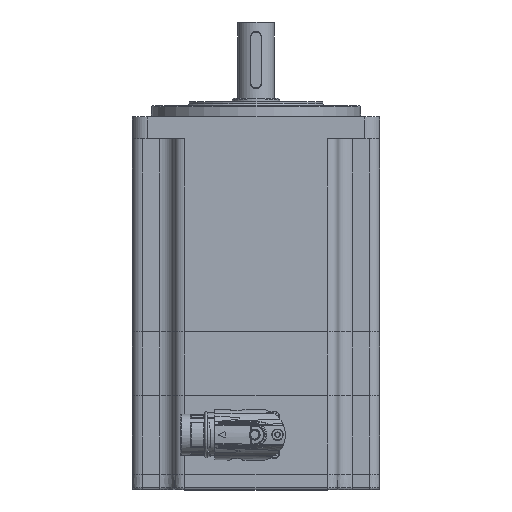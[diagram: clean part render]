
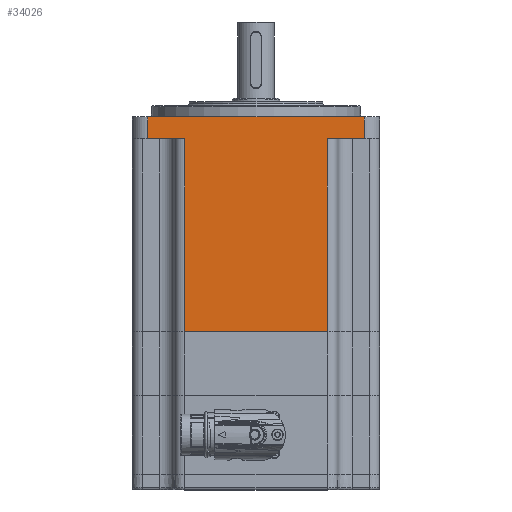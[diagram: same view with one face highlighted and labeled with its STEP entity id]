
A CAD part, top view. The second image highlights one B-rep face of the part: STEP entity #34026.
In plain terms, the highlighted planar face has unit normal (0, 0, 1).
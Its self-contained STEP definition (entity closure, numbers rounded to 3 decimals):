
#12874=LINE('',#56282,#14508);
#12924=LINE('',#57263,#14558);
#12929=LINE('',#57290,#14563);
#12948=LINE('',#57366,#14582);
#12949=LINE('',#57367,#14583);
#12950=LINE('',#57369,#14584);
#12951=LINE('',#57371,#14585);
#12952=LINE('',#57372,#14586);
#14508=VECTOR('',#42154,1000.);
#14558=VECTOR('',#42628,1000.);
#14563=VECTOR('',#42651,1000.);
#14582=VECTOR('',#42730,1000.);
#14583=VECTOR('',#42731,1000.);
#14584=VECTOR('',#42732,1000.);
#14585=VECTOR('',#42733,1000.);
#14586=VECTOR('',#42734,1000.);
#21110=ORIENTED_EDGE('',*,*,#24305,.F.);
#21111=ORIENTED_EDGE('',*,*,#24605,.T.);
#21112=ORIENTED_EDGE('',*,*,#24569,.F.);
#21113=ORIENTED_EDGE('',*,*,#24606,.T.);
#21114=ORIENTED_EDGE('',*,*,#24607,.F.);
#21115=ORIENTED_EDGE('',*,*,#24608,.T.);
#21116=ORIENTED_EDGE('',*,*,#24557,.F.);
#21117=ORIENTED_EDGE('',*,*,#24609,.T.);
#24305=EDGE_CURVE('',#26755,#26756,#12874,.T.);
#24557=EDGE_CURVE('',#26917,#26918,#12924,.T.);
#24569=EDGE_CURVE('',#26929,#26930,#12929,.T.);
#24605=EDGE_CURVE('',#26755,#26930,#12948,.T.);
#24606=EDGE_CURVE('',#26929,#26957,#12949,.T.);
#24607=EDGE_CURVE('',#26958,#26957,#12950,.T.);
#24608=EDGE_CURVE('',#26958,#26918,#12951,.F.);
#24609=EDGE_CURVE('',#26917,#26756,#12952,.T.);
#26755=VERTEX_POINT('',#56281);
#26756=VERTEX_POINT('',#56283);
#26917=VERTEX_POINT('',#57264);
#26918=VERTEX_POINT('',#57265);
#26929=VERTEX_POINT('',#57289);
#26930=VERTEX_POINT('',#57291);
#26957=VERTEX_POINT('',#57368);
#26958=VERTEX_POINT('',#57370);
#29853=EDGE_LOOP('',(#21110,#21111,#21112,#21113,#21114,#21115,#21116,#21117));
#31831=FACE_BOUND('',#29853,.T.);
#32597=PLANE('',#36439);
#34026=ADVANCED_FACE('',(#31831),#32597,.T.);
#36439=AXIS2_PLACEMENT_3D('',#57365,#42728,#42729);
#42154=DIRECTION('',(1.,0.,0.));
#42628=DIRECTION('',(1.,0.,0.));
#42651=DIRECTION('',(1.,0.,0.));
#42728=DIRECTION('',(0.,0.,1.));
#42729=DIRECTION('',(0.,-1.,0.));
#42730=DIRECTION('',(0.,-1.,0.));
#42731=DIRECTION('',(0.,-1.,0.));
#42732=DIRECTION('',(-1.,0.,0.));
#42733=DIRECTION('',(0.,-1.,0.));
#42734=DIRECTION('',(0.,1.,0.));
#56281=CARTESIAN_POINT('',(-37.5,114.2,65.));
#56282=CARTESIAN_POINT('',(65.,114.2,65.));
#56283=CARTESIAN_POINT('',(37.5,114.2,65.));
#57263=CARTESIAN_POINT('',(65.,12.7,65.));
#57264=CARTESIAN_POINT('',(37.5,12.7,65.));
#57265=CARTESIAN_POINT('',(57.,12.7,65.));
#57289=CARTESIAN_POINT('',(-57.,12.7,65.));
#57290=CARTESIAN_POINT('',(65.,12.7,65.));
#57291=CARTESIAN_POINT('',(-37.5,12.7,65.));
#57365=CARTESIAN_POINT('',(65.,309.164,65.));
#57366=CARTESIAN_POINT('',(-37.5,309.164,65.));
#57367=CARTESIAN_POINT('',(-57.,309.164,65.));
#57368=CARTESIAN_POINT('',(-57.,1.2,65.));
#57369=CARTESIAN_POINT('',(65.,1.2,65.));
#57370=CARTESIAN_POINT('',(57.,1.2,65.));
#57371=CARTESIAN_POINT('',(57.,309.164,65.));
#57372=CARTESIAN_POINT('',(37.5,309.164,65.));
